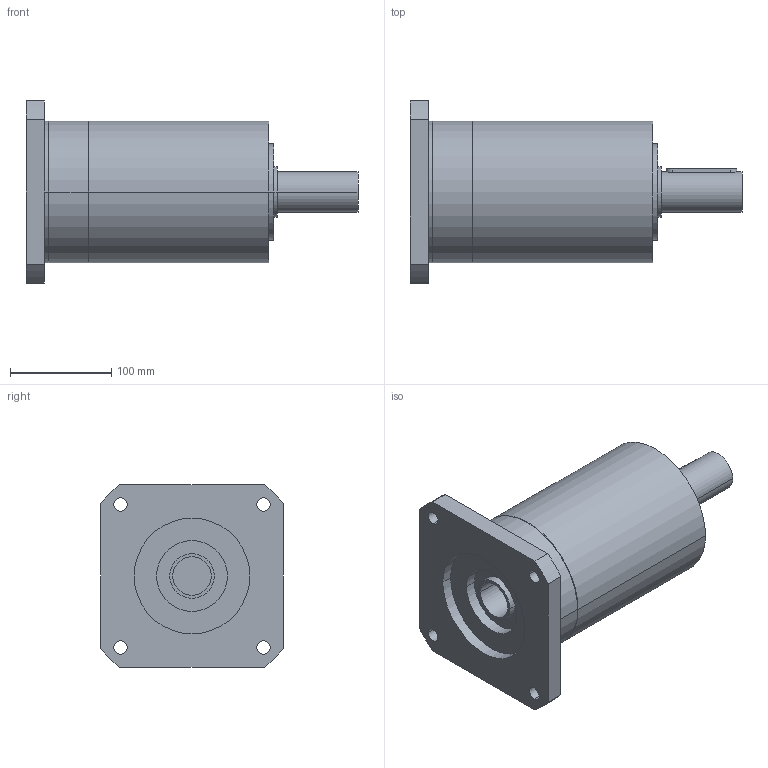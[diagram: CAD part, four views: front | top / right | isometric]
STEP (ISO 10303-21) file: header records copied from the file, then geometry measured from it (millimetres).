
FILE_DESCRIPTION(('CoCreate Modeling STEP Export'),'2;1');
FILE_NAME('GPR150_ig-9-12-16-20-28-35_40_B14_38_P09.stp','2014-08-19T17:04:34',(''),(''),'CoCreate Modeling STEP processor for AP214 (Solid Model)','CoCreate Modeling 16.00C 25-Feb-2009 (C) Parametric Technology GmbH','');
FILE_SCHEMA(('AUTOMOTIVE_DESIGN { 1 0 10303 214 1 1 1 1 }'));
Length unit declared in the file: millimetre
Products named in the file (2): GPR150_ig-9-12-16-20-28-35_40_B14_38_P09
Assembly tree (1 placements, depth 2):
  GPR150_ig-9-12-16-20-28-35_40_B14_38_P09
    GPR150_ig-9-12-16-20-28-35_40_B14_38_P09
Bounding box: 328 x 180 x 180 mm (x, y, z)
Volume: 3879217.8 mm3; surface area: 209878.7 mm2
Topology: 1 solids, 1 shells, 73 faces, 196 edges, 138 vertices
Faces by surface type: cylinder 44, plane 23, cone 6
Entity records: 2038 total; most frequent: CARTESIAN_POINT 396, ORIENTED_EDGE 388, DIRECTION 272, EDGE_CURVE 194, VERTEX_POINT 138, AXIS2_PLACEMENT_3D 102, EDGE_LOOP 96, FACE_OUTER_BOUND 73
